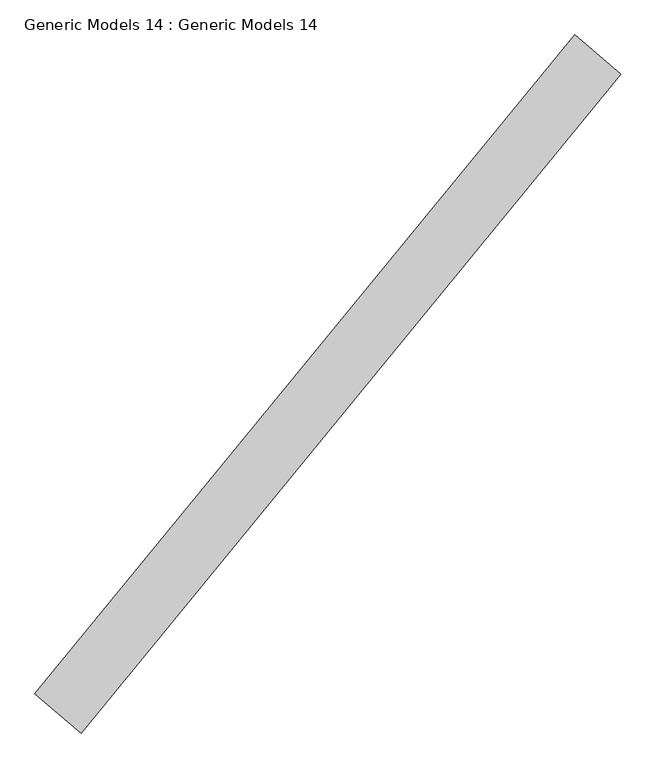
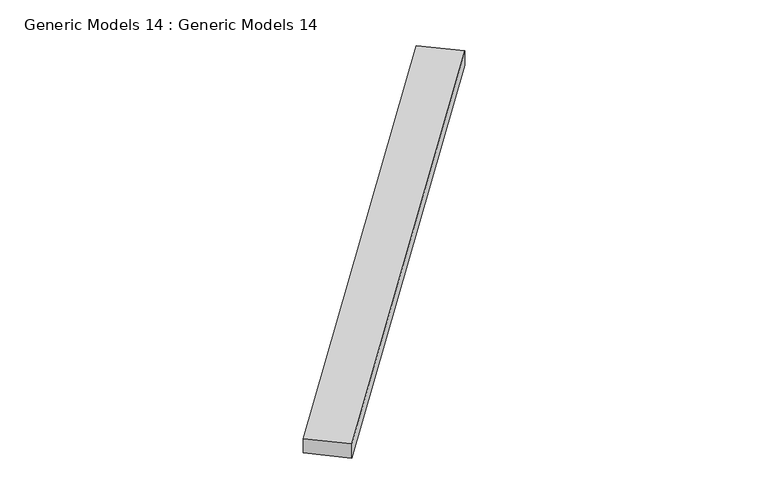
"""IFC4 building model written with IfcOpenShell, lengths in millimetres: proxy geometry, Generic Models 14 : Generic Models 14."""

from ifc_helpers import new_model, si_unit, frame, origin, place, context, project, spatial, polyline, outline, extrude, source, transform, mapped, element, save


def generic_models_14_generic_models_14_6ee5034d(model_context):
    return source(origin(), model_context, "Body", "SweptSolid", [
        extrude(outline(polyline([(868002.1321117, 72007.0461647), (859186.0015344, 61258.9123416), (858430.6168225, 61900.4902806), (867249.3485985, 72651.7953398), (868002.1321117, 72007.0461647)])), frame((0.0, 0.0, 3000.0), z_axis=(0.0, 0.0, 1.0), x_axis=(1.0, 0.0, 0.0)), (0.0, 0.0, 1.0), 352.8991495),
    ])


if __name__ == "__main__":
    model = new_model("IFC4")
    model_context = context("Model", 3, world=origin())
    ifc_project = project(units=[si_unit("LENGTHUNIT", "METRE", prefix="MILLI")], contexts=[model_context])
    site = spatial("IfcSite", under=ifc_project)
    building = spatial("IfcBuilding", under=site)
    placement = place(None, origin())
    generic_models_14_generic_models_14_shape = generic_models_14_generic_models_14_6ee5034d(model_context)
    element("IfcBuildingElementProxy", 1, Name="Generic Models 14 : Generic Models 14", ObjectType="Generic Models 14 : Generic Models 14", at=placement, inside=building, context=model_context, shape_type="MappedRepresentation", body=[
        mapped(generic_models_14_generic_models_14_shape, transform((0.0, 0.0, 0.0), x_axis=(1.0, 0.0, 0.0), y_axis=(0.0, 1.0, 0.0), z_axis=(0.0, 0.0, 1.0))),
    ])
    save(model, "model.ifc")
